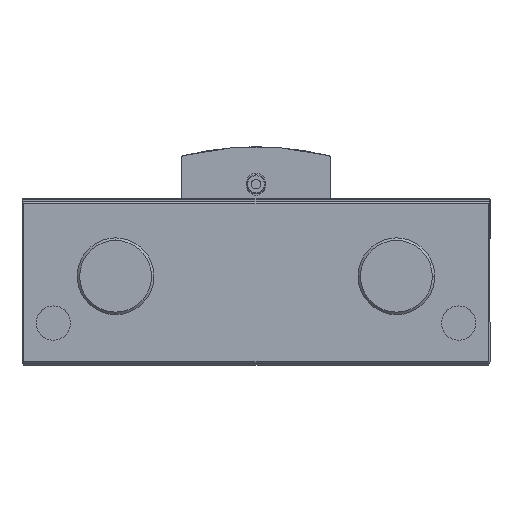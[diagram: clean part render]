
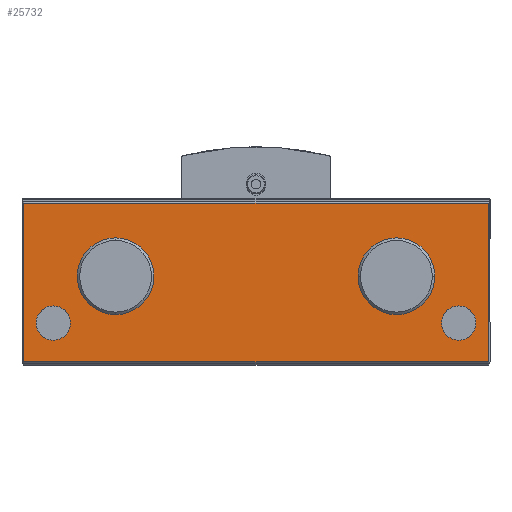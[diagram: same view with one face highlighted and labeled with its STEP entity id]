
A CAD part, top view. The second image highlights one B-rep face of the part: STEP entity #25732.
In plain terms, the highlighted planar face has unit normal (0, 0, 1).
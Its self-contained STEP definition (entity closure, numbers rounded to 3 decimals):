
#67 = EDGE_LOOP ( 'NONE', ( #8545, #23773 ) ) ;
#130 = VERTEX_POINT ( 'NONE', #4513 ) ;
#270 = DIRECTION ( 'NONE',  ( -1., 0., 0. ) ) ;
#522 = DIRECTION ( 'NONE',  ( -1., 0., 0. ) ) ;
#549 = CIRCLE ( 'NONE', #3031, 5.5 ) ;
#732 = EDGE_LOOP ( 'NONE', ( #21553, #11042 ) ) ;
#1534 = CARTESIAN_POINT ( 'NONE',  ( 45., 28., 290. ) ) ;
#1787 = DIRECTION ( 'NONE',  ( 0., 0., -1. ) ) ;
#1924 = DIRECTION ( 'NONE',  ( -1., 0., 0. ) ) ;
#1954 = FACE_BOUND ( 'NONE', #18867, .T. ) ;
#2023 = CIRCLE ( 'NONE', #20385, 12.3 ) ;
#2039 = DIRECTION ( 'NONE',  ( 0., 0., -1. ) ) ;
#2331 = CIRCLE ( 'NONE', #4659, 5.5 ) ;
#2567 = FACE_OUTER_BOUND ( 'NONE', #23129, .T. ) ;
#3030 = EDGE_CURVE ( 'NONE', #12027, #10617, #2023, .T. ) ;
#3031 = AXIS2_PLACEMENT_3D ( 'NONE', #11120, #25048, #13045 ) ;
#3091 = CARTESIAN_POINT ( 'NONE',  ( 74.4, 52., 290. ) ) ;
#3166 = LINE ( 'NONE', #5550, #17081 ) ;
#3352 = CARTESIAN_POINT ( 'NONE',  ( -57.3, 28., 290. ) ) ;
#3537 = DIRECTION ( 'NONE',  ( -1., 0., 0. ) ) ;
#3991 = EDGE_CURVE ( 'NONE', #9704, #13556, #9155, .T. ) ;
#4257 = CARTESIAN_POINT ( 'NONE',  ( -74.4, 51.4, 290. ) ) ;
#4513 = CARTESIAN_POINT ( 'NONE',  ( -70.5, 13., 290. ) ) ;
#4546 = LINE ( 'NONE', #3091, #19661 ) ;
#4579 = CARTESIAN_POINT ( 'NONE',  ( -74.4, 0.6, 290. ) ) ;
#4659 = AXIS2_PLACEMENT_3D ( 'NONE', #10322, #24213, #12258 ) ;
#4991 = VERTEX_POINT ( 'NONE', #4257 ) ;
#5550 = CARTESIAN_POINT ( 'NONE',  ( 75., 0.6, 290. ) ) ;
#5776 = EDGE_LOOP ( 'NONE', ( #25055, #14347 ) ) ;
#6487 = AXIS2_PLACEMENT_3D ( 'NONE', #1534, #15366, #3537 ) ;
#6711 = CIRCLE ( 'NONE', #25427, 12.3 ) ;
#7008 = ORIENTED_EDGE ( 'NONE', *, *, #10763, .T. ) ;
#7264 = FACE_BOUND ( 'NONE', #732, .T. ) ;
#7632 = ORIENTED_EDGE ( 'NONE', *, *, #9261, .T. ) ;
#7720 = EDGE_CURVE ( 'NONE', #10389, #4991, #21996, .T. ) ;
#7794 = DIRECTION ( 'NONE',  ( 0., 0., -1. ) ) ;
#7973 = CIRCLE ( 'NONE', #6487, 12.3 ) ;
#8464 = CARTESIAN_POINT ( 'NONE',  ( 59.5, 13., 290. ) ) ;
#8545 = ORIENTED_EDGE ( 'NONE', *, *, #3991, .T. ) ;
#8618 = AXIS2_PLACEMENT_3D ( 'NONE', #19572, #7794, #21631 ) ;
#9155 = CIRCLE ( 'NONE', #14410, 12.3 ) ;
#9261 = EDGE_CURVE ( 'NONE', #4991, #18870, #17228, .T. ) ;
#9565 = VERTEX_POINT ( 'NONE', #20654 ) ;
#9636 = EDGE_CURVE ( 'NONE', #9565, #10389, #4546, .T. ) ;
#9704 = VERTEX_POINT ( 'NONE', #3352 ) ;
#9745 = EDGE_CURVE ( 'NONE', #10617, #12027, #7973, .T. ) ;
#9823 = EDGE_CURVE ( 'NONE', #13275, #22020, #10152, .T. ) ;
#9954 = EDGE_CURVE ( 'NONE', #22020, #13275, #14700, .T. ) ;
#9996 = EDGE_CURVE ( 'NONE', #130, #10310, #2331, .T. ) ;
#10124 = CARTESIAN_POINT ( 'NONE',  ( -45., 28., 290. ) ) ;
#10152 = CIRCLE ( 'NONE', #10507, 5.5 ) ;
#10310 = VERTEX_POINT ( 'NONE', #19726 ) ;
#10322 = CARTESIAN_POINT ( 'NONE',  ( -65., 13., 290. ) ) ;
#10389 = VERTEX_POINT ( 'NONE', #19909 ) ;
#10431 = ORIENTED_EDGE ( 'NONE', *, *, #9996, .T. ) ;
#10452 = CARTESIAN_POINT ( 'NONE',  ( 32.7, 28., 290. ) ) ;
#10507 = AXIS2_PLACEMENT_3D ( 'NONE', #13600, #1787, #15622 ) ;
#10617 = VERTEX_POINT ( 'NONE', #13076 ) ;
#10763 = EDGE_CURVE ( 'NONE', #18870, #9565, #3166, .T. ) ;
#11042 = ORIENTED_EDGE ( 'NONE', *, *, #9954, .T. ) ;
#11120 = CARTESIAN_POINT ( 'NONE',  ( -65., 13., 290. ) ) ;
#11875 = DIRECTION ( 'NONE',  ( 0., -1., 0. ) ) ;
#11998 = VECTOR ( 'NONE', #11875, 1000. ) ;
#12027 = VERTEX_POINT ( 'NONE', #10452 ) ;
#12071 = DIRECTION ( 'NONE',  ( -1., 0., 0. ) ) ;
#12175 = DIRECTION ( 'NONE',  ( 0., 0., -1. ) ) ;
#12258 = DIRECTION ( 'NONE',  ( -1., 0., 0. ) ) ;
#12399 = DIRECTION ( 'NONE',  ( 0., 0., -1. ) ) ;
#13045 = DIRECTION ( 'NONE',  ( -1., 0., 0. ) ) ;
#13076 = CARTESIAN_POINT ( 'NONE',  ( 57.3, 28., 290. ) ) ;
#13117 = CARTESIAN_POINT ( 'NONE',  ( 70.5, 13., 290. ) ) ;
#13275 = VERTEX_POINT ( 'NONE', #8464 ) ;
#13556 = VERTEX_POINT ( 'NONE', #17227 ) ;
#13600 = CARTESIAN_POINT ( 'NONE',  ( 65., 13., 290. ) ) ;
#13731 = CARTESIAN_POINT ( 'NONE',  ( -75., 51.4, 290. ) ) ;
#13848 = CARTESIAN_POINT ( 'NONE',  ( -45., 28., 290. ) ) ;
#13994 = EDGE_CURVE ( 'NONE', #10310, #130, #549, .T. ) ;
#14347 = ORIENTED_EDGE ( 'NONE', *, *, #9745, .T. ) ;
#14410 = AXIS2_PLACEMENT_3D ( 'NONE', #13848, #2039, #15885 ) ;
#14700 = CIRCLE ( 'NONE', #23803, 5.5 ) ;
#15366 = DIRECTION ( 'NONE',  ( 0., 0., -1. ) ) ;
#15377 = DIRECTION ( 'NONE',  ( 1., 0., 0. ) ) ;
#15622 = DIRECTION ( 'NONE',  ( -1., 0., 0. ) ) ;
#15807 = EDGE_CURVE ( 'NONE', #13556, #9704, #6711, .T. ) ;
#15885 = DIRECTION ( 'NONE',  ( -1., 0., 0. ) ) ;
#16864 = ORIENTED_EDGE ( 'NONE', *, *, #9636, .T. ) ;
#16932 = DIRECTION ( 'NONE',  ( 0., 1., 0. ) ) ;
#17081 = VECTOR ( 'NONE', #15377, 1000. ) ;
#17114 = FACE_BOUND ( 'NONE', #67, .T. ) ;
#17227 = CARTESIAN_POINT ( 'NONE',  ( -32.7, 28., 290. ) ) ;
#17228 = LINE ( 'NONE', #23802, #11998 ) ;
#18867 = EDGE_LOOP ( 'NONE', ( #10431, #25669 ) ) ;
#18870 = VERTEX_POINT ( 'NONE', #4579 ) ;
#19572 = CARTESIAN_POINT ( 'NONE',  ( -75., 0., 290. ) ) ;
#19661 = VECTOR ( 'NONE', #16932, 1000. ) ;
#19726 = CARTESIAN_POINT ( 'NONE',  ( -59.5, 13., 290. ) ) ;
#19909 = CARTESIAN_POINT ( 'NONE',  ( 74.4, 51.4, 290. ) ) ;
#20385 = AXIS2_PLACEMENT_3D ( 'NONE', #24373, #12399, #522 ) ;
#20654 = CARTESIAN_POINT ( 'NONE',  ( 74.4, 0.6, 290. ) ) ;
#21368 = VECTOR ( 'NONE', #1924, 1000. ) ;
#21553 = ORIENTED_EDGE ( 'NONE', *, *, #9823, .T. ) ;
#21631 = DIRECTION ( 'NONE',  ( -1., 0., 0. ) ) ;
#21996 = LINE ( 'NONE', #13731, #21368 ) ;
#22020 = VERTEX_POINT ( 'NONE', #13117 ) ;
#22192 = ORIENTED_EDGE ( 'NONE', *, *, #7720, .T. ) ;
#22453 = FACE_BOUND ( 'NONE', #5776, .T. ) ;
#23129 = EDGE_LOOP ( 'NONE', ( #22192, #7632, #7008, #16864 ) ) ;
#23583 = PLANE ( 'NONE',  #8618 ) ;
#23773 = ORIENTED_EDGE ( 'NONE', *, *, #15807, .T. ) ;
#23802 = CARTESIAN_POINT ( 'NONE',  ( -74.4, 0., 290. ) ) ;
#23803 = AXIS2_PLACEMENT_3D ( 'NONE', #24131, #12175, #270 ) ;
#24007 = DIRECTION ( 'NONE',  ( 0., 0., -1. ) ) ;
#24131 = CARTESIAN_POINT ( 'NONE',  ( 65., 13., 290. ) ) ;
#24213 = DIRECTION ( 'NONE',  ( 0., 0., -1. ) ) ;
#24373 = CARTESIAN_POINT ( 'NONE',  ( 45., 28., 290. ) ) ;
#25048 = DIRECTION ( 'NONE',  ( 0., 0., -1. ) ) ;
#25055 = ORIENTED_EDGE ( 'NONE', *, *, #3030, .T. ) ;
#25427 = AXIS2_PLACEMENT_3D ( 'NONE', #10124, #24007, #12071 ) ;
#25669 = ORIENTED_EDGE ( 'NONE', *, *, #13994, .T. ) ;
#25732 = ADVANCED_FACE ( 'NONE', ( #2567, #7264, #1954, #22453, #17114 ), #23583, .F. ) ;
